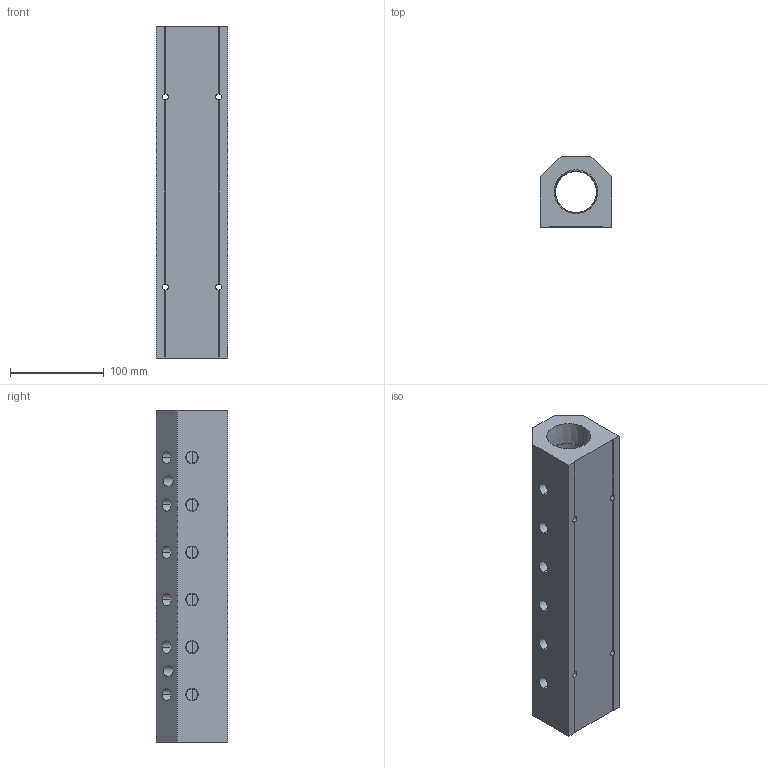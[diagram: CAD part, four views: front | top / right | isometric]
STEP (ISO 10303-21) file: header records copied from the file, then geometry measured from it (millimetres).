
FILE_DESCRIPTION (( 'STEP AP214' ), '1' );
FILE_NAME ('ALM6ABC-N4N24-355B.step', '2022-02-07T07:46:19', ( '' ), ( '' ), 'SwSTEP 2.0', 'SolidWorks 2020', '' );
FILE_SCHEMA (( 'AUTOMOTIVE_DESIGN' ));
Length unit declared in the file: millimetre
Products named in the file (1): ALM6ABC-N4N24-355B
Bounding box: 76.2 x 76.2 x 355 mm (x, y, z)
Volume: 1281518.7 mm3; surface area: 168580.7 mm2
Topology: 1 solids, 1 shells, 359 faces, 964 edges, 636 vertices
Faces by surface type: plane 225, bspline 76, cone 40, cylinder 18
Entity records: 20733 total; most frequent: CARTESIAN_POINT 8790, ORIENTED_EDGE 1928, DIRECTION 1400, EDGE_CURVE 964, LINE 688, VECTOR 688, VERTEX_POINT 636, EDGE_LOOP 434
